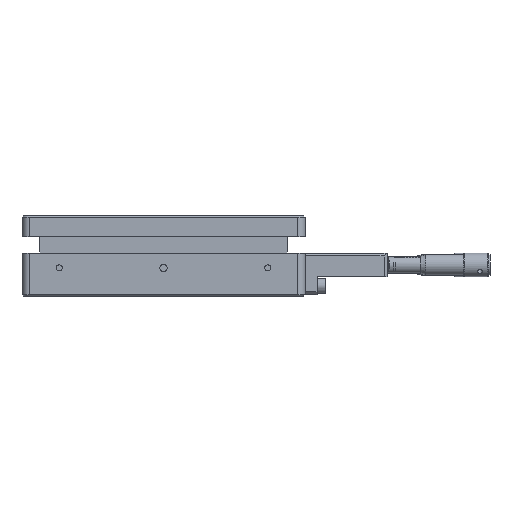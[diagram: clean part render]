
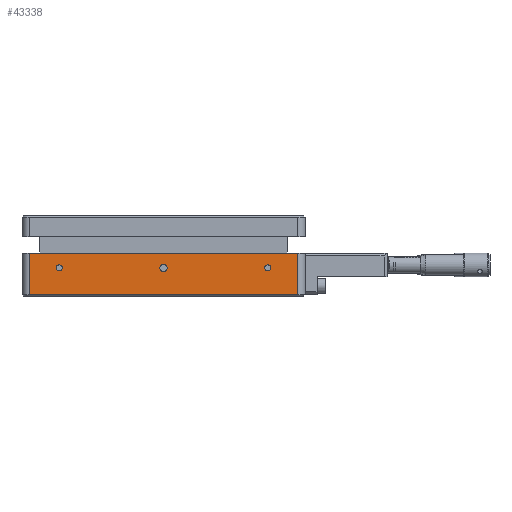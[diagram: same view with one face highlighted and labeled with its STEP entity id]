
A CAD part, left-side view. The second image highlights one B-rep face of the part: STEP entity #43338.
In plain terms, the highlighted planar face has unit normal (-1, 0, 0).
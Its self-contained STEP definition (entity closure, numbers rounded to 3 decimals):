
#1327=FACE_BOUND($,#14088,.T.);
#1328=FACE_BOUND($,#14089,.T.);
#1329=FACE_BOUND($,#14090,.T.);
#5382=LINE($,#95456,#8182);
#5384=LINE($,#95462,#8184);
#5385=LINE($,#95464,#8185);
#5386=LINE($,#95465,#8186);
#8182=VECTOR($,#53313,28.);
#8184=VECTOR($,#53319,180.);
#8185=VECTOR($,#53320,28.);
#8186=VECTOR($,#53321,180.);
#11005=FACE_OUTER_BOUND($,#14087,.T.);
#14087=EDGE_LOOP($,(#32996,#32997,#32998,#32999));
#14088=EDGE_LOOP($,(#33000));
#14089=EDGE_LOOP($,(#33001));
#14090=EDGE_LOOP($,(#33002));
#16253=CIRCLE($,#46549,2.067);
#16254=CIRCLE($,#46550,2.067);
#16255=CIRCLE($,#46551,2.459);
#18921=VERTEX_POINT($,#95452);
#18923=VERTEX_POINT($,#95455);
#18925=VERTEX_POINT($,#95461);
#18926=VERTEX_POINT($,#95463);
#18927=VERTEX_POINT($,#95466);
#18928=VERTEX_POINT($,#95468);
#18929=VERTEX_POINT($,#95470);
#23979=EDGE_CURVE($,#18921,#18923,#5382,.T.);
#23982=EDGE_CURVE($,#18925,#18921,#5384,.T.);
#23983=EDGE_CURVE($,#18926,#18925,#5385,.T.);
#23984=EDGE_CURVE($,#18923,#18926,#5386,.T.);
#23985=EDGE_CURVE($,#18927,#18927,#16253,.T.);
#23986=EDGE_CURVE($,#18928,#18928,#16254,.T.);
#23987=EDGE_CURVE($,#18929,#18929,#16255,.T.);
#32996=ORIENTED_EDGE($,*,*,#23982,.F.);
#32997=ORIENTED_EDGE($,*,*,#23983,.F.);
#32998=ORIENTED_EDGE($,*,*,#23984,.F.);
#32999=ORIENTED_EDGE($,*,*,#23979,.F.);
#33000=ORIENTED_EDGE($,*,*,#23985,.T.);
#33001=ORIENTED_EDGE($,*,*,#23986,.T.);
#33002=ORIENTED_EDGE($,*,*,#23987,.T.);
#39156=PLANE($,#46548);
#43338=ADVANCED_FACE($,(#11005,#1327,#1328,#1329),#39156,.T.);
#46548=AXIS2_PLACEMENT_3D($,#95460,#53317,#53318);
#46549=AXIS2_PLACEMENT_3D($,#95467,#53322,#53323);
#46550=AXIS2_PLACEMENT_3D($,#95469,#53324,#53325);
#46551=AXIS2_PLACEMENT_3D($,#95471,#53326,#53327);
#53313=DIRECTION($,(0.,0.,1.));
#53317=DIRECTION('center_axis',(-1.,0.,0.));
#53318=DIRECTION('ref_axis',(0.,-1.,0.));
#53319=DIRECTION($,(0.,1.,0.));
#53320=DIRECTION($,(0.,0.,-1.));
#53321=DIRECTION($,(0.,-1.,0.));
#53322=DIRECTION('center_axis',(1.,0.,0.));
#53323=DIRECTION('ref_axis',(0.,0.,1.));
#53324=DIRECTION('center_axis',(1.,0.,0.));
#53325=DIRECTION('ref_axis',(0.,0.,1.));
#53326=DIRECTION('center_axis',(1.,0.,0.));
#53327=DIRECTION('ref_axis',(0.,0.,1.));
#95452=CARTESIAN_POINT('',(-125.,90.,-13.5));
#95455=CARTESIAN_POINT('',(-125.,90.,14.5));
#95456=CARTESIAN_POINT($,(-125.,90.,0.));
#95460=CARTESIAN_POINT('Origin',(-125.,95.,0.));
#95461=CARTESIAN_POINT('',(-125.,-90.,-13.5));
#95462=CARTESIAN_POINT($,(-125.,47.5,-13.5));
#95463=CARTESIAN_POINT('',(-125.,-90.,14.5));
#95464=CARTESIAN_POINT($,(-125.,-90.,0.));
#95465=CARTESIAN_POINT($,(-125.,95.,14.5));
#95466=CARTESIAN_POINT('',(-125.,70.,6.567));
#95467=CARTESIAN_POINT('Origin',(-125.,70.,4.5));
#95468=CARTESIAN_POINT('',(-125.,-70.,6.567));
#95469=CARTESIAN_POINT('Origin',(-125.,-70.,4.5));
#95470=CARTESIAN_POINT('',(-125.,0.,6.959));
#95471=CARTESIAN_POINT('Origin',(-125.,0.,4.5));
